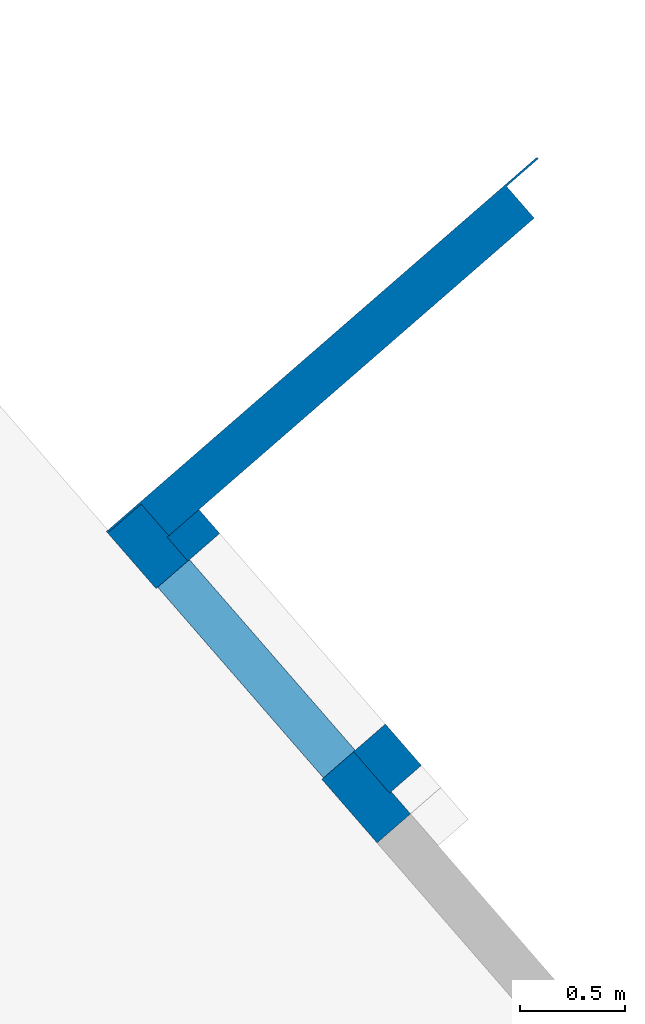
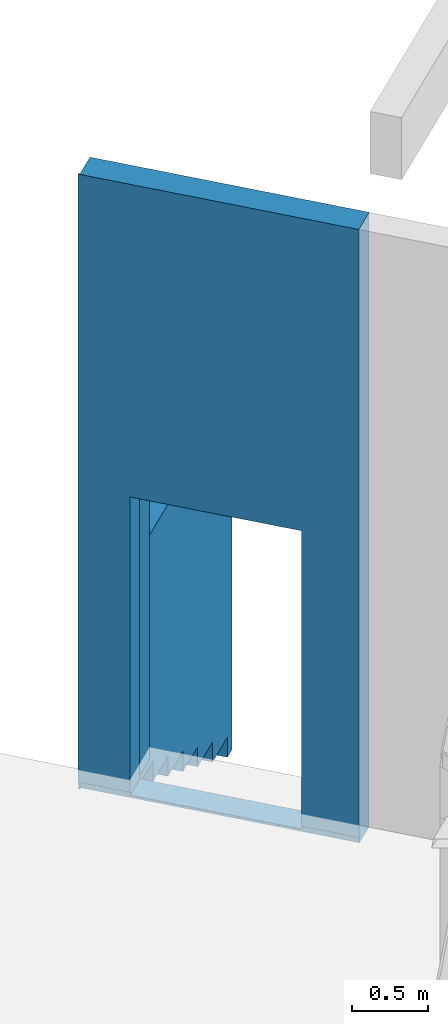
# One storey, part 212 of 390: 3 walls.
"""IFC2X3 building model written with IfcOpenShell, lengths in millimetres."""

from ifc_helpers import new_model, entity, si_unit, converted_unit, derived_unit, money_unit, direction, frame, origin_with_axes, place, context, subcontext, project, spatial, faceted_brep, material, material_list, type_object, element, save


model = new_model("IFC2X3")

# Units and contexts
model_context = context("Model", 3, precision=1e-05, world=origin_with_axes(), true_north=direction((0.0, 1.0)))
body_context = subcontext(model_context, "Body", "Model", "MODEL_VIEW")
ifc_project = project(units=[si_unit("LENGTHUNIT", "METRE", prefix="MILLI"), si_unit("AREAUNIT", "SQUARE_METRE"), si_unit("VOLUMEUNIT", "CUBIC_METRE"), converted_unit("PLANEANGLEUNIT", "DEGREE", entity("IfcPlaneAngleMeasure", 0.0174532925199), si_unit("PLANEANGLEUNIT", "RADIAN"), dimensions=[0, 0, 0, 0, 0, 0, 0]), si_unit("SOLIDANGLEUNIT", "STERADIAN"), money_unit("EUR"), converted_unit("TIMEUNIT", "Year", entity("IfcTimeMeasure", 31556926.0), si_unit("TIMEUNIT", "SECOND"), dimensions=[0, 0, 1, 0, 0, 0, 0]), si_unit("MASSUNIT", "GRAM", prefix="KILO"), si_unit("THERMODYNAMICTEMPERATUREUNIT", "DEGREE_CELSIUS"), si_unit("LUMINOUSINTENSITYUNIT", "LUMEN"), si_unit("ENERGYUNIT", "JOULE", prefix="MEGA"), derived_unit("THERMALCONDUCTANCEUNIT", [(si_unit("POWERUNIT", "WATT"), 1), (si_unit("LENGTHUNIT", "METRE"), -1), (si_unit("THERMODYNAMICTEMPERATUREUNIT", "KELVIN"), -1)]), derived_unit("SPECIFICHEATCAPACITYUNIT", [(si_unit("ENERGYUNIT", "JOULE"), 1), (si_unit("MASSUNIT", "GRAM", prefix="KILO"), -1), (si_unit("THERMODYNAMICTEMPERATUREUNIT", "KELVIN"), -1)]), derived_unit("MASSDENSITYUNIT", [(si_unit("MASSUNIT", "GRAM", prefix="KILO"), 1), (si_unit("VOLUMEUNIT", "CUBIC_METRE"), -1)])], contexts=[model_context])

# Site, building, storey
site_placement = place(None, origin_with_axes())
site = spatial("IfcSite", under=ifc_project, at=site_placement, Name="Site", CompositionType="ELEMENT")
building_placement = place(site_placement, origin_with_axes())
building = spatial("IfcBuilding", under=site, at=building_placement, Name="Building", CompositionType="ELEMENT")
storey_placement = place(building_placement, origin_with_axes())
storey = spatial("IfcBuildingStorey", under=building, at=storey_placement, Name="1 korrus", CompositionType="ELEMENT", Elevation=0.0)

# Walls
ifc_material_1 = material(Name="Raudbetoon - Konstruktsioon")
ifc_material_2 = material(Name="Krohv - Lubjakivi")
ifc_material_list = material_list([ifc_material_1, ifc_material_2])
wall_type_1 = type_object("IfcWallType", Name="SS-11", PredefinedType="NOTDEFINED")
wall_1_placement = place(storey_placement, frame((145526.076162, 78119.9731672, -415.0), z_axis=(0.0, 0.0, 1.0), x_axis=(0.656059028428, -0.754709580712, 0.0)))
element("IfcWall", 1, at=wall_1_placement, inside=storey, type_object=wall_type_1, material=ifc_material_list, Name="SS-11", context=body_context, shape_type="Brep", body=[
    faceted_brep([(1349.99986942, -125.0, 415.0), (1349.99986942, -200.0, 415.0), (1349.99986942, -200.0, 2695.0), (1349.99986942, 0.0, 2695.0), (1349.99986942, 0.0, 415.0), (1349.99986942, 0.0, 285.0), (1349.99986942, -200.0, 285.0), (1750.00064027, -200.0, 5215.0), (-199.999998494, -200.0, 5215.0), (-199.999853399, -200.000070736, 265.0), (1750.00064027, -200.0, 265.0), (150.000069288, -200.0, 285.0), (150.000069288, -200.0, 415.0), (150.000069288, -200.0, 2695.0), (150.000069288, 0.0, 2695.0), (-199.999998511, 0.0, 5215.0), (1750.00064027, 0.0, 5215.0), (1750.00064027, 0.0, 265.0), (-199.99999521, 0.0, 265.0), (150.000069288, 0.0, 415.0), (150.000069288, 0.0, 285.0), (150.000069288, -125.0, 415.0)], [[[0, 1, 2, 3, 4]], [[1, 0, 4, 5, 6]], [[7, 8, 9, 10], [2, 1, 6, 11, 12, 13]], [[3, 2, 13, 14]], [[15, 16, 17, 18], [5, 4, 3, 14, 19, 20]], [[11, 6, 5, 20]], [[8, 7, 16, 15]], [[8, 15, 18, 9]], [[10, 9, 18, 17]], [[16, 7, 10, 17]], [[21, 12, 11, 20, 19]], [[13, 12, 21, 19, 14]]]),
    faceted_brep([(150.000069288, -200.00001451, 2695.0), (150.000069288, -200.0, 415.0), (150.000069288, -200.000058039, 315.0), (-210.000000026, -200.000070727, 315.0), (-210.000000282, -200.0, 5215.0), (1750.00064027, -200.0, 5215.0), (1750.00064027, -200.0, 315.0), (1349.99986942, -200.00001451, 315.0), (1349.99986942, -200.0, 415.0), (1349.99986942, -200.00001451, 2695.0), (150.000069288, -210.0, 2695.0), (150.000069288, -210.0, 415.0), (150.000069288, -210.0, 315.0), (-210.000000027, -210.0, 315.0), (-210.000000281, -210.0, 5215.0), (1750.00064027, -210.0, 5215.0), (1750.00064027, -210.0, 315.0), (1349.99986942, -210.0, 315.0), (1349.99986942, -210.0, 415.0), (1349.99986942, -210.0, 2695.0)], [[[0, 1, 2, 3, 4, 5, 6, 7, 8, 9]], [[1, 0, 10, 11]], [[1, 11, 12, 2]], [[13, 3, 2, 12]], [[13, 14, 4, 3]], [[4, 14, 15, 5]], [[6, 5, 15, 16]], [[7, 6, 16, 17]], [[18, 8, 7, 17]], [[9, 8, 18, 19]], [[0, 9, 19, 10]], [[19, 18, 17, 16, 15, 14, 13, 12, 11, 10]]]),
])
wall_2_placement = place(storey_placement, frame((147261.908196, 79628.9089312, -1635.0), z_axis=(0.0, 0.0, 1.0), x_axis=(-0.754709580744, -0.65605902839, 0.0)))
element("IfcWall", 2, at=wall_2_placement, inside=storey, type_object=wall_type_1, material=ifc_material_list, Name="SS-11", context=body_context, shape_type="Brep", body=[
    faceted_brep([(91.999999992, -0.000737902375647, 343.0), (91.999999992, -0.000737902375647, 181.5), (2.84217094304e-10, -0.00077167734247, 181.5), (0.0, 0.0, 3020.0), (2299.99999797, 0.0, 3020.0), (2299.99999797, 7.45060901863e-07, 1485.0), (2110.00059574, 7.45068007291e-07, 1485.0), (2110.00046718, 2.94456015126e-06, 1312.0), (1903.99999999, -7.26821909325e-05, 1312.0), (1903.99999999, -7.26821909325e-05, 1150.5), (1601.99999999, -0.000183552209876, 1150.5), (1601.99999999, -0.000183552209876, 989.0), (1299.99999999, -0.000294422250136, 989.0), (1299.99999999, -0.000294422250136, 827.5), (997.999999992, -0.00040529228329, 827.5), (997.999999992, -0.00040529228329, 666.0), (695.999999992, -0.000516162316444, 666.0), (695.999999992, -0.000516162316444, 504.5), (394.00001206, -0.000637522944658, 504.5), (394.00001206, -0.000637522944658, 343.0), (92.0000734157, -200.000129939, 343.0), (92.0000734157, -200.000129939, 181.5), (2.4053292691e-07, -200.000000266, 181.5), (2.40561348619e-07, -200.0, 3020.0), (2299.99999798, -200.0, 3020.0), (2299.99999797, -199.99999521, 1485.0), (2110.00065935, -200.000129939, 1485.0), (2110.00050903, -200.000121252, 1312.0), (1904.00007342, -200.000129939, 1312.0), (1904.00007342, -200.000129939, 1150.5), (1602.00007342, -200.000129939, 1150.5), (1602.00007342, -200.000129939, 989.0), (1300.00007342, -200.000129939, 989.0), (1300.00007342, -200.000129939, 827.5), (998.000073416, -200.000129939, 827.5), (998.000073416, -200.000129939, 666.0), (696.000073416, -200.000129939, 666.0), (696.000073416, -200.000129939, 504.5), (394.000084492, -200.000129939, 504.5), (394.000084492, -200.000129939, 343.0)], [[[0, 1, 2, 3, 4, 5, 6, 7, 8, 9, 10, 11, 12, 13, 14, 15, 16, 17, 18, 19]], [[1, 0, 20, 21]], [[22, 2, 1, 21]], [[2, 22, 23, 3]], [[3, 23, 24, 4]], [[24, 25, 5, 4]], [[26, 6, 5, 25]], [[27, 7, 6, 26]], [[8, 7, 27, 28]], [[9, 8, 28, 29]], [[10, 9, 29, 30]], [[11, 10, 30, 31]], [[12, 11, 31, 32]], [[13, 12, 32, 33]], [[14, 13, 33, 34]], [[15, 14, 34, 35]], [[16, 15, 35, 36]], [[17, 16, 36, 37]], [[18, 17, 37, 38]], [[19, 18, 38, 39]], [[0, 19, 39, 20]], [[28, 27, 26, 25, 24, 23, 22, 21, 20, 39, 38, 37, 36, 35, 34, 33, 32, 31, 30, 29]]]),
    faceted_brep([(92.0000734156, -200.0, 343.0), (92.0000734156, -200.0, 181.5), (-199.999999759, -200.000000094, 181.5), (-199.999999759, -200.0, 3020.0), (2499.99999798, -200.0, 3020.0), (2500.00001766, -199.999969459, 1473.5), (2206.00007342, -200.000083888, 1473.5), (2206.00007342, -200.000083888, 1312.0), (2110.00050903, -200.000121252, 1312.0), (1904.00007342, -200.0, 1312.0), (1904.00007342, -200.0, 1150.5), (1602.00007342, -200.0, 1150.5), (1602.00007342, -200.0, 989.0), (1300.00007342, -200.0, 989.0), (1300.00007342, -200.0, 827.5), (998.000073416, -200.0, 827.5), (998.000073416, -200.0, 666.0), (696.000073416, -200.0, 666.0), (696.000073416, -200.0, 504.5), (394.000084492, -200.0, 504.5), (394.000084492, -200.0, 343.0), (92.0000770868, -210.0, 343.0), (92.0000770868, -210.0, 181.5), (-199.999999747, -210.0, 181.5), (-199.999999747, -210.0, 3020.0), (2499.99999798, -210.000000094, 3020.0), (2500.00001749, -210.000000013, 1473.5), (2206.00007709, -210.0, 1473.5), (2206.00007709, -210.0, 1312.0), (1904.00007709, -210.0, 1312.0), (1904.00007709, -210.0, 1150.5), (1602.00007709, -210.0, 1150.5), (1602.00007709, -210.0, 989.0), (1300.00007709, -210.0, 989.0), (1300.00007709, -210.0, 827.5), (998.000077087, -210.0, 827.5), (998.000077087, -210.0, 666.0), (696.000077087, -210.0, 666.0), (696.000077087, -210.0, 504.5), (394.000088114, -210.0, 504.5), (394.000088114, -210.0, 343.0)], [[[0, 1, 2, 3, 4, 5, 6, 7, 8, 9, 10, 11, 12, 13, 14, 15, 16, 17, 18, 19, 20]], [[1, 0, 21, 22]], [[23, 2, 1, 22]], [[2, 23, 24, 3]], [[3, 24, 25, 4]], [[26, 5, 4, 25]], [[6, 5, 26, 27]], [[7, 6, 27, 28]], [[9, 8, 7, 28, 29]], [[10, 9, 29, 30]], [[11, 10, 30, 31]], [[12, 11, 31, 32]], [[13, 12, 32, 33]], [[14, 13, 33, 34]], [[15, 14, 34, 35]], [[16, 15, 35, 36]], [[17, 16, 36, 37]], [[18, 17, 37, 38]], [[19, 18, 38, 39]], [[20, 19, 39, 40]], [[0, 20, 40, 21]], [[27, 26, 25, 24, 23, 22, 21, 40, 39, 38, 37, 36, 35, 34, 33, 32, 31, 30, 29, 28]]]),
])
ifc_material_3 = material(Name="Müüriplokk - Konstuktsioon")
wall_type_2 = type_object("IfcWallType", Name="SS-03", PredefinedType="NOTDEFINED")
wall_3_placement = place(storey_placement, frame((146725.726002, 77029.5418457, -150.0), z_axis=(0.0, 0.0, 1.0), x_axis=(-0.656059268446, 0.754709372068, 0.0)))
element("IfcWall", 3, at=wall_3_placement, inside=storey, type_object=wall_type_2, material=ifc_material_3, Name="SS-03", context=body_context, shape_type="Brep", body=[
    faceted_brep([(1460.0000715, 0.0, 2430.0), (1460.0000715, 0.0, 150.0), (1460.0000715, 0.0, 50.0), (1610.00007064, 0.0, 50.0), (1610.00007501, 0.0, 2730.0), (0.0, 0.0, 2730.0), (0.0, 0.0, 50.0), (260.000071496, 0.0, 50.0), (260.000071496, 0.0, 150.0), (260.000071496, 0.0, 2430.0), (1460.0000715, 200.0, 2430.0), (1460.0000715, 200.0, 150.0), (1460.0000715, 200.0, 50.0), (1610.00013398, 200.0, 50.0), (1610.00013851, 200.0, 2730.0), (0.0, 200.0, 2730.0), (0.0, 200.0, 50.0), (260.000071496, 200.0, 50.0), (260.000071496, 200.0, 150.0), (260.000071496, 200.0, 2430.0)], [[[0, 1, 2, 3, 4, 5, 6, 7, 8, 9]], [[1, 0, 10, 11]], [[1, 11, 12, 2]], [[2, 12, 13, 3]], [[3, 13, 14, 4]], [[5, 4, 14, 15]], [[16, 6, 5, 15]], [[17, 7, 6, 16]], [[18, 8, 7, 17]], [[9, 8, 18, 19]], [[0, 9, 19, 10]], [[19, 18, 17, 16, 15, 14, 13, 12, 11, 10]]]),
])

save(model, "model.ifc")
